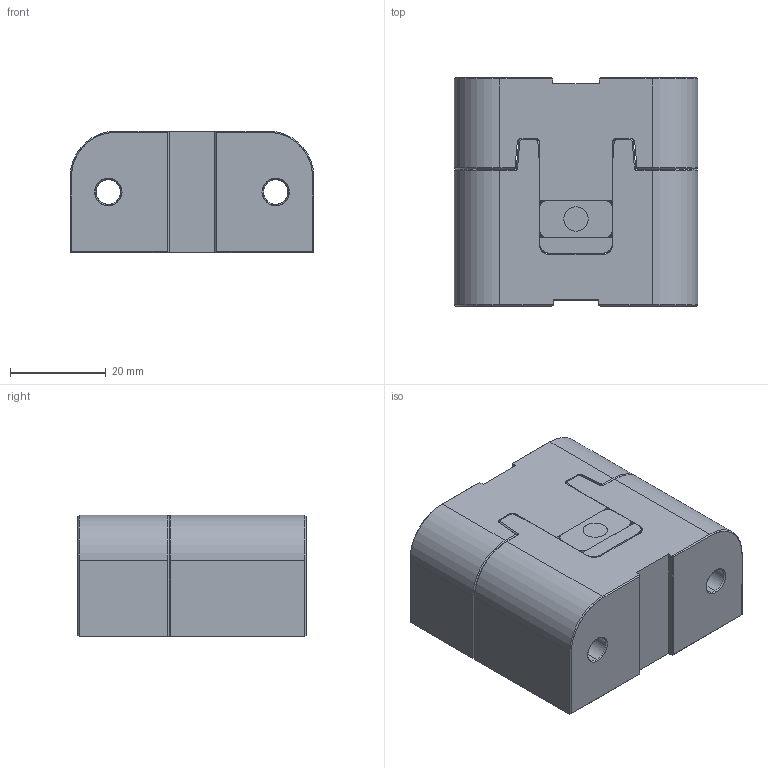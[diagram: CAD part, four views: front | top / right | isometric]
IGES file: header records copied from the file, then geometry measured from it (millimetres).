
Start section: SolidWorks IGES file using analytic representation for surfaces
Global section: file name: C:\Users\Ryan\Documents\PCS\Tri Lock Top Lock\KTL-200\KTL-200.igs; native system: SolidWorks 2009; preprocessor: SolidWorks 2009; author: Ryan; date: 140406.080707; units: inch
Bounding box: 50.8 x 47.62 x 25.4 mm (x, y, z)
Surface area: 18323.2 mm2 (no closed solid volume)
Topology: 0 solids, 0 shells, 226 faces, 2346 edges, 2346 vertices
Faces by surface type: bspline 128, revolution 98
